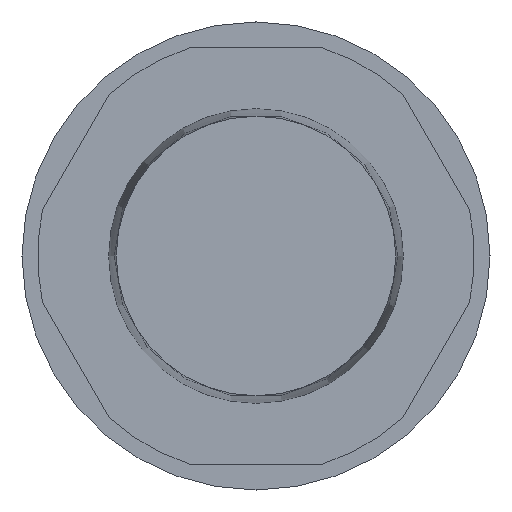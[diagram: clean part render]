
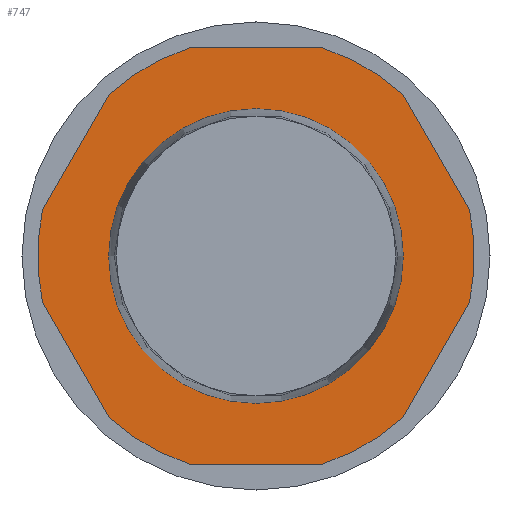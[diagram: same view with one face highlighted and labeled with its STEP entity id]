
A CAD part, left-side view. The second image highlights one B-rep face of the part: STEP entity #747.
In plain terms, the highlighted planar face has unit normal (-1, 0, 0).
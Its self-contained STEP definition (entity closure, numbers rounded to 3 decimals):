
#121=CARTESIAN_POINT('',(-19.25,8.5,0.));
#122=VERTEX_POINT('',#121);
#123=CARTESIAN_POINT('',(-19.25,0.0,0.0));
#124=DIRECTION('',(1.0,0.0,0.0));
#125=DIRECTION('',(0.0,-1.0,0.0));
#126=AXIS2_PLACEMENT_3D('',#123,#124,#125);
#127=CIRCLE('',#126,8.5);
#128=EDGE_CURVE('',#122,#122,#127,.T.);
#460=CARTESIAN_POINT('',(-19.25,12.313,2.673));
#461=VERTEX_POINT('',#460);
#469=CARTESIAN_POINT('',(-19.25,12.313,-2.673));
#470=VERTEX_POINT('',#469);
#477=CARTESIAN_POINT('',(-19.25,0.0,0.0));
#478=DIRECTION('',(1.0,0.0,0.0));
#479=DIRECTION('',(0.0,-1.0,0.0));
#480=AXIS2_PLACEMENT_3D('',#477,#478,#479);
#481=CIRCLE('',#480,12.6);
#482=EDGE_CURVE('',#470,#461,#481,.T.);
#492=CARTESIAN_POINT('',(-19.25,3.842,-12.0));
#493=VERTEX_POINT('',#492);
#500=CARTESIAN_POINT('',(-19.25,8.471,-9.327));
#501=VERTEX_POINT('',#500);
#502=CARTESIAN_POINT('',(-19.25,0.0,0.0));
#503=DIRECTION('',(1.0,0.0,0.0));
#504=DIRECTION('',(0.0,-1.0,0.0));
#505=AXIS2_PLACEMENT_3D('',#502,#503,#504);
#506=CIRCLE('',#505,12.6);
#507=EDGE_CURVE('',#493,#501,#506,.T.);
#524=CARTESIAN_POINT('',(-19.25,3.842,12.));
#525=VERTEX_POINT('',#524);
#533=CARTESIAN_POINT('',(-19.25,8.471,9.327));
#534=VERTEX_POINT('',#533);
#541=CARTESIAN_POINT('',(-19.25,0.0,0.0));
#542=DIRECTION('',(1.0,0.0,0.0));
#543=DIRECTION('',(0.0,-1.0,0.0));
#544=AXIS2_PLACEMENT_3D('',#541,#542,#543);
#545=CIRCLE('',#544,12.6);
#546=EDGE_CURVE('',#534,#525,#545,.T.);
#556=CARTESIAN_POINT('',(-19.25,-8.471,-9.327));
#557=VERTEX_POINT('',#556);
#564=CARTESIAN_POINT('',(-19.25,-3.842,-12.0));
#565=VERTEX_POINT('',#564);
#566=CARTESIAN_POINT('',(-19.25,0.0,0.0));
#567=DIRECTION('',(1.0,0.0,0.0));
#568=DIRECTION('',(0.0,-1.0,0.0));
#569=AXIS2_PLACEMENT_3D('',#566,#567,#568);
#570=CIRCLE('',#569,12.6);
#571=EDGE_CURVE('',#557,#565,#570,.T.);
#588=CARTESIAN_POINT('',(-19.25,-8.471,9.327));
#589=VERTEX_POINT('',#588);
#597=CARTESIAN_POINT('',(-19.25,-3.842,12.));
#598=VERTEX_POINT('',#597);
#605=CARTESIAN_POINT('',(-19.25,0.0,0.0));
#606=DIRECTION('',(1.0,0.0,0.0));
#607=DIRECTION('',(0.0,-1.0,0.0));
#608=AXIS2_PLACEMENT_3D('',#605,#606,#607);
#609=CIRCLE('',#608,12.6);
#610=EDGE_CURVE('',#598,#589,#609,.T.);
#620=CARTESIAN_POINT('',(-19.25,-12.313,2.673));
#621=VERTEX_POINT('',#620);
#628=CARTESIAN_POINT('',(-19.25,-12.313,-2.673));
#629=VERTEX_POINT('',#628);
#630=CARTESIAN_POINT('',(-19.25,0.0,0.0));
#631=DIRECTION('',(1.0,0.0,0.0));
#632=DIRECTION('',(0.0,-1.0,0.0));
#633=AXIS2_PLACEMENT_3D('',#630,#631,#632);
#634=CIRCLE('',#633,12.6);
#635=EDGE_CURVE('',#621,#629,#634,.T.);
#653=CARTESIAN_POINT('',(-19.25,-12.313,-2.673));
#654=DIRECTION('',(0.0,0.5,-0.866));
#655=VECTOR('',#654,7.684);
#656=LINE('',#653,#655);
#657=EDGE_CURVE('',#629,#557,#656,.T.);
#672=CARTESIAN_POINT('',(-19.25,3.842,12.));
#673=DIRECTION('',(0.0,-1.0,0.0));
#674=VECTOR('',#673,7.684);
#675=LINE('',#672,#674);
#676=EDGE_CURVE('',#525,#598,#675,.T.);
#687=CARTESIAN_POINT('',(-19.25,-3.842,-12.0));
#688=DIRECTION('',(0.0,1.0,0.0));
#689=VECTOR('',#688,7.684);
#690=LINE('',#687,#689);
#691=EDGE_CURVE('',#565,#493,#690,.T.);
#706=CARTESIAN_POINT('',(-19.25,12.313,2.673));
#707=DIRECTION('',(0.0,-0.5,0.866));
#708=VECTOR('',#707,7.684);
#709=LINE('',#706,#708);
#710=EDGE_CURVE('',#461,#534,#709,.T.);
#715=CARTESIAN_POINT('',(-19.25,0.,0.));
#716=DIRECTION('',(1.0,0.0,0.0));
#717=DIRECTION('',(0.0,0.0,-1.0));
#718=AXIS2_PLACEMENT_3D('',#715,#716,#717);
#719=PLANE('',#718);
#720=ORIENTED_EDGE('',*,*,#610,.F.);
#721=ORIENTED_EDGE('',*,*,#676,.F.);
#722=ORIENTED_EDGE('',*,*,#546,.F.);
#723=ORIENTED_EDGE('',*,*,#710,.F.);
#724=ORIENTED_EDGE('',*,*,#482,.F.);
#725=CARTESIAN_POINT('',(-19.25,8.471,-9.327));
#726=DIRECTION('',(0.0,0.5,0.866));
#727=VECTOR('',#726,7.684);
#728=LINE('',#725,#727);
#729=EDGE_CURVE('',#501,#470,#728,.T.);
#730=ORIENTED_EDGE('',*,*,#729,.F.);
#731=ORIENTED_EDGE('',*,*,#507,.F.);
#732=ORIENTED_EDGE('',*,*,#691,.F.);
#733=ORIENTED_EDGE('',*,*,#571,.F.);
#734=ORIENTED_EDGE('',*,*,#657,.F.);
#735=ORIENTED_EDGE('',*,*,#635,.F.);
#736=CARTESIAN_POINT('',(-19.25,-8.471,9.327));
#737=DIRECTION('',(0.0,-0.5,-0.866));
#738=VECTOR('',#737,7.684);
#739=LINE('',#736,#738);
#740=EDGE_CURVE('',#589,#621,#739,.T.);
#741=ORIENTED_EDGE('',*,*,#740,.F.);
#742=EDGE_LOOP('',(#720,#721,#722,#723,#724,#730,#731,#732,#733,#734,#735,#741));
#743=FACE_OUTER_BOUND('',#742,.T.);
#744=ORIENTED_EDGE('',*,*,#128,.T.);
#745=EDGE_LOOP('',(#744));
#746=FACE_BOUND('',#745,.T.);
#747=ADVANCED_FACE('',(#743,#746),#719,.F.);
